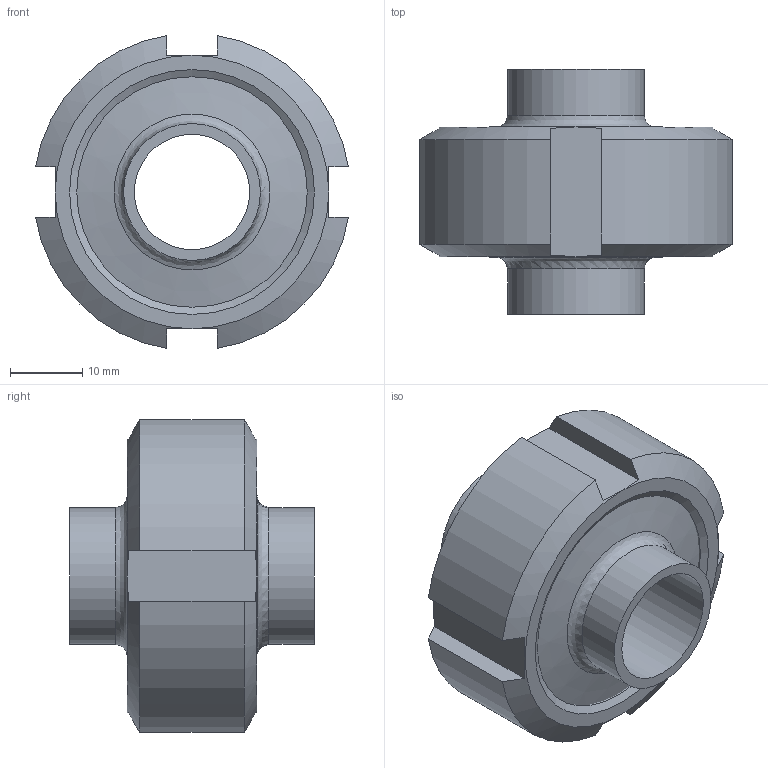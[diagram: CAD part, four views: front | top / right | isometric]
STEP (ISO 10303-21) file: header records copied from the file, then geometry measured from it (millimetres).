
FILE_DESCRIPTION((''),'2;1');
FILE_NAME('V:\Výkresy (KATALOG + NÁVODY)\3D-pdf\2xxxx\STEP\20120\2012-015-R ŠROUBENÍ PŘIVAŘOVACÍ.stp','2018-08-27T14:46:57',('fonai'),(''),'Autodesk Inventor 2010','Autodesk Inventor 2010','');
FILE_SCHEMA(('AUTOMOTIVE_DESIGN { 1 0 10303 214 1 1 1 1 }'));
Length unit declared in the file: millimetre
Products named in the file (5): 2012-015-R ŠROUBENÍ PŘIVAŘOVACÍ; 2010-015-R ZÁVITOVE HRDLO; 2004-015-1 TĚSNĚNÍ; 2011-015-R Kuželové hrdlo; 2003-015 Převlečná matice
Assembly tree (4 placements, depth 2):
  2012-015-R ŠROUBENÍ PŘIVAŘOVACÍ
    2010-015-R ZÁVITOVE HRDLO
    2004-015-1 TĚSNĚNÍ
    2011-015-R Kuželové hrdlo
    2003-015 Převlečná matice
Bounding box: 43.44 x 34 x 43.44 mm (x, y, z)
Volume: 23630.9 mm3; surface area: 14640 mm2
Topology: 4 solids, 4 shells, 59 faces, 120 edges, 74 vertices
Faces by surface type: plane 25, cylinder 16, cone 15, bspline 2, torus 1
Full cylindrical faces by diameter (mm): 16 x2, 18 x2, 19 x2, 24 x1, 25 x1, 25.8 x1, 26 x1, 32 x1, 34 x1
Entity records: 1643 total; most frequent: CARTESIAN_POINT 392, DIRECTION 248, ORIENTED_EDGE 196, AXIS2_PLACEMENT_3D 116, EDGE_CURVE 98, EDGE_LOOP 94, VERTEX_POINT 74, FACE_OUTER_BOUND 59
